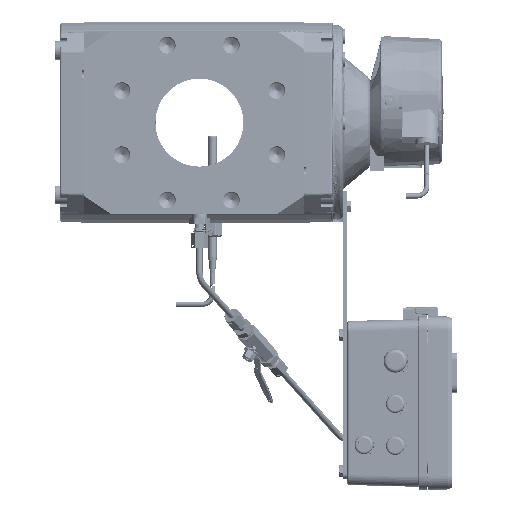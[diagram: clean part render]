
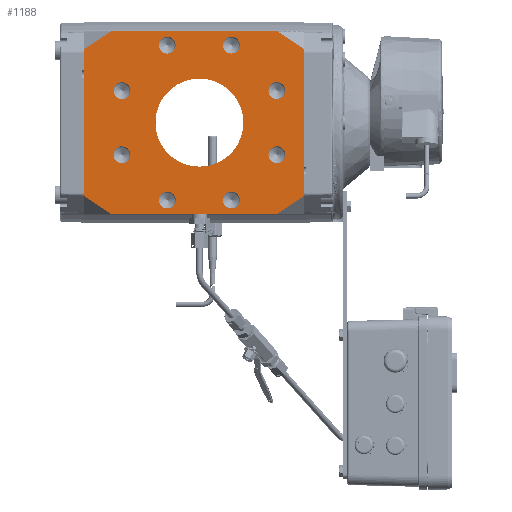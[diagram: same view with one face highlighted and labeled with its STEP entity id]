
A CAD part, left-side view. The second image highlights one B-rep face of the part: STEP entity #1188.
In plain terms, the highlighted planar face has unit normal (-1, 0, 0).
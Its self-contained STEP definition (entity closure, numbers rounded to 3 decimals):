
#1188=ADVANCED_FACE('',(#45391,#45393,#45395,#45397,#45399,#45401,#45403,#45405,
#45407,#45409),#45411,.T.);
#45391=FACE_BOUND('',#45392,.T.);
#45392=EDGE_LOOP('',(#116465,#116466,#116467,#116468,#116469,#116470,#116471,#116472));
#45393=FACE_BOUND('',#45394,.T.);
#45394=EDGE_LOOP('',(#116473));
#45395=FACE_BOUND('',#45396,.T.);
#45396=EDGE_LOOP('',(#116474));
#45397=FACE_BOUND('',#45398,.T.);
#45398=EDGE_LOOP('',(#116475));
#45399=FACE_BOUND('',#45400,.T.);
#45400=EDGE_LOOP('',(#116476));
#45401=FACE_BOUND('',#45402,.T.);
#45402=EDGE_LOOP('',(#116477));
#45403=FACE_BOUND('',#45404,.T.);
#45404=EDGE_LOOP('',(#116478));
#45405=FACE_BOUND('',#45406,.T.);
#45406=EDGE_LOOP('',(#116479));
#45407=FACE_BOUND('',#45408,.T.);
#45408=EDGE_LOOP('',(#116480));
#45409=FACE_BOUND('',#45410,.T.);
#45410=EDGE_LOOP('',(#116481));
#45411=PLANE('',#45412);
#45412=AXIS2_PLACEMENT_3D('',#45413,#45414,#45415);
#45413=CARTESIAN_POINT('',(-85.5,0.,-87.));
#45414=DIRECTION('',(-1.,0.,0.));
#45415=DIRECTION('',(0.,0.,1.));
#116465=ORIENTED_EDGE('',*,*,#143824,.T.);
#116466=ORIENTED_EDGE('',*,*,#143758,.F.);
#116467=ORIENTED_EDGE('',*,*,#143825,.T.);
#116468=ORIENTED_EDGE('',*,*,#143826,.F.);
#116469=ORIENTED_EDGE('',*,*,#143827,.T.);
#116470=ORIENTED_EDGE('',*,*,#143625,.T.);
#116471=ORIENTED_EDGE('',*,*,#143828,.T.);
#116472=ORIENTED_EDGE('',*,*,#143829,.T.);
#116473=ORIENTED_EDGE('',*,*,#143830,.T.);
#116474=ORIENTED_EDGE('',*,*,#143831,.T.);
#116475=ORIENTED_EDGE('',*,*,#143832,.T.);
#116476=ORIENTED_EDGE('',*,*,#143833,.T.);
#116477=ORIENTED_EDGE('',*,*,#143486,.T.);
#116478=ORIENTED_EDGE('',*,*,#143834,.T.);
#116479=ORIENTED_EDGE('',*,*,#143835,.T.);
#116480=ORIENTED_EDGE('',*,*,#143836,.T.);
#116481=ORIENTED_EDGE('',*,*,#143837,.T.);
#143486=EDGE_CURVE('',#155557,#155557,#155558,.F.);
#143625=EDGE_CURVE('',#155826,#155824,#155827,.T.);
#143758=EDGE_CURVE('',#156086,#156088,#156089,.T.);
#143824=EDGE_CURVE('',#156219,#156088,#156220,.T.);
#143825=EDGE_CURVE('',#156086,#156221,#156222,.T.);
#143826=EDGE_CURVE('',#156223,#156221,#156224,.T.);
#143827=EDGE_CURVE('',#156223,#155826,#156225,.T.);
#143828=EDGE_CURVE('',#155824,#156226,#156227,.T.);
#143829=EDGE_CURVE('',#156226,#156219,#156228,.T.);
#143830=EDGE_CURVE('',#156229,#156229,#156230,.T.);
#143831=EDGE_CURVE('',#156231,#156231,#156232,.T.);
#143832=EDGE_CURVE('',#156233,#156233,#156234,.T.);
#143833=EDGE_CURVE('',#156235,#156235,#156236,.T.);
#143834=EDGE_CURVE('',#156237,#156237,#156238,.T.);
#143835=EDGE_CURVE('',#156239,#156239,#156240,.T.);
#143836=EDGE_CURVE('',#156241,#156241,#156242,.T.);
#143837=EDGE_CURVE('',#156243,#156243,#156244,.T.);
#155557=VERTEX_POINT('',#176641);
#155558=CIRCLE('',#176642,42.);
#155824=VERTEX_POINT('',#178030);
#155826=VERTEX_POINT('',#178034);
#155827=LINE('',#178035,#178036);
#156086=VERTEX_POINT('',#178674);
#156088=VERTEX_POINT('',#178678);
#156089=LINE('',#178679,#178680);
#156219=VERTEX_POINT('',#179002);
#156220=LINE('',#179003,#179004);
#156221=VERTEX_POINT('',#179006);
#156222=LINE('',#179007,#179008);
#156223=VERTEX_POINT('',#179010);
#156224=LINE('',#179011,#179012);
#156225=LINE('',#179014,#179015);
#156226=VERTEX_POINT('',#179017);
#156227=LINE('',#179018,#179019);
#156228=LINE('',#179021,#179022);
#156229=VERTEX_POINT('',#179024);
#156230=CIRCLE('',#179025,8.);
#156231=VERTEX_POINT('',#179029);
#156232=CIRCLE('',#179030,8.);
#156233=VERTEX_POINT('',#179034);
#156234=CIRCLE('',#179035,8.);
#156235=VERTEX_POINT('',#179039);
#156236=CIRCLE('',#179040,8.);
#156237=VERTEX_POINT('',#179044);
#156238=CIRCLE('',#179045,8.);
#156239=VERTEX_POINT('',#179049);
#156240=CIRCLE('',#179050,8.);
#156241=VERTEX_POINT('',#179054);
#156242=CIRCLE('',#179055,8.);
#156243=VERTEX_POINT('',#179059);
#156244=CIRCLE('',#179060,8.);
#176641=CARTESIAN_POINT('',(-85.5,100.,-42.));
#176642=AXIS2_PLACEMENT_3D('',#176643,#176644,#176645);
#176643=CARTESIAN_POINT('',(-85.5,100.,0.));
#176644=DIRECTION('',(-1.,0.,0.));
#176645=DIRECTION('',(0.,0.,-1.));
#178030=CARTESIAN_POINT('',(-85.5,0.,70.));
#178034=CARTESIAN_POINT('',(-85.5,0.,-70.));
#178035=CARTESIAN_POINT('',(-85.5,0.,-70.));
#178036=VECTOR('',#178037,1.);
#178037=DIRECTION('',(0.,0.,1.));
#178674=CARTESIAN_POINT('',(-85.5,210.,-70.));
#178678=CARTESIAN_POINT('',(-85.5,210.,70.));
#178679=CARTESIAN_POINT('',(-85.5,210.,-70.));
#178680=VECTOR('',#178681,1.);
#178681=DIRECTION('',(0.,0.,1.));
#179002=CARTESIAN_POINT('',(-85.5,184.512,87.));
#179003=CARTESIAN_POINT('',(-85.5,184.512,87.));
#179004=VECTOR('',#179005,1.);
#179005=DIRECTION('',(0.,0.832,-0.555));
#179006=CARTESIAN_POINT('',(-85.5,184.512,-87.));
#179007=CARTESIAN_POINT('',(-85.5,210.,-70.));
#179008=VECTOR('',#179009,1.);
#179009=DIRECTION('',(0.,-0.832,-0.555));
#179010=CARTESIAN_POINT('',(-85.5,25.488,-87.));
#179011=CARTESIAN_POINT('',(-85.5,25.488,-87.));
#179012=VECTOR('',#179013,1.);
#179013=DIRECTION('',(0.,1.,0.));
#179014=CARTESIAN_POINT('',(-85.5,25.488,-87.));
#179015=VECTOR('',#179016,1.);
#179016=DIRECTION('',(0.,-0.832,0.555));
#179017=CARTESIAN_POINT('',(-85.5,25.488,87.));
#179018=CARTESIAN_POINT('',(-85.5,0.,70.));
#179019=VECTOR('',#179020,1.);
#179020=DIRECTION('',(0.,0.832,0.555));
#179021=CARTESIAN_POINT('',(-85.5,25.488,87.));
#179022=VECTOR('',#179023,1.);
#179023=DIRECTION('',(0.,1.,0.));
#179024=CARTESIAN_POINT('',(-85.5,75.039,-79.55));
#179025=AXIS2_PLACEMENT_3D('',#179026,#179027,#179028);
#179026=CARTESIAN_POINT('',(-85.5,69.382,-73.893));
#179027=DIRECTION('',(1.,0.,0.));
#179028=DIRECTION('',(0.,0.707,-0.707));
#179029=CARTESIAN_POINT('',(-85.5,179.55,-24.961));
#179030=AXIS2_PLACEMENT_3D('',#179031,#179032,#179033);
#179031=CARTESIAN_POINT('',(-85.5,173.893,-30.618));
#179032=DIRECTION('',(1.,0.,0.));
#179033=DIRECTION('',(0.,0.707,0.707));
#179034=CARTESIAN_POINT('',(-85.5,124.961,79.55));
#179035=AXIS2_PLACEMENT_3D('',#179036,#179037,#179038);
#179036=CARTESIAN_POINT('',(-85.5,130.618,73.893));
#179037=DIRECTION('',(1.,0.,0.));
#179038=DIRECTION('',(0.,-0.707,0.707));
#179039=CARTESIAN_POINT('',(-85.5,20.45,24.961));
#179040=AXIS2_PLACEMENT_3D('',#179041,#179042,#179043);
#179041=CARTESIAN_POINT('',(-85.5,26.107,30.618));
#179042=DIRECTION('',(1.,0.,0.));
#179043=DIRECTION('',(0.,-0.707,-0.707));
#179044=CARTESIAN_POINT('',(-85.5,26.1,-38.6));
#179045=AXIS2_PLACEMENT_3D('',#179046,#179047,#179048);
#179046=CARTESIAN_POINT('',(-85.5,26.1,-30.6));
#179047=DIRECTION('',(1.,0.,0.));
#179048=DIRECTION('',(0.,0.,-1.));
#179049=CARTESIAN_POINT('',(-85.5,61.4,73.9));
#179050=AXIS2_PLACEMENT_3D('',#179051,#179052,#179053);
#179051=CARTESIAN_POINT('',(-85.5,69.4,73.9));
#179052=DIRECTION('',(1.,0.,0.));
#179053=DIRECTION('',(0.,-1.,0.));
#179054=CARTESIAN_POINT('',(-85.5,173.9,38.6));
#179055=AXIS2_PLACEMENT_3D('',#179056,#179057,#179058);
#179056=CARTESIAN_POINT('',(-85.5,173.9,30.6));
#179057=DIRECTION('',(1.,0.,0.));
#179058=DIRECTION('',(0.,0.,1.));
#179059=CARTESIAN_POINT('',(-85.5,138.6,-73.9));
#179060=AXIS2_PLACEMENT_3D('',#179061,#179062,#179063);
#179061=CARTESIAN_POINT('',(-85.5,130.6,-73.9));
#179062=DIRECTION('',(1.,0.,0.));
#179063=DIRECTION('',(0.,1.,0.));
